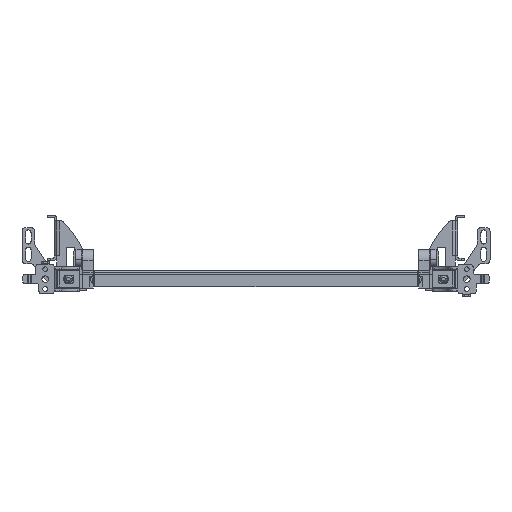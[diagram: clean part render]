
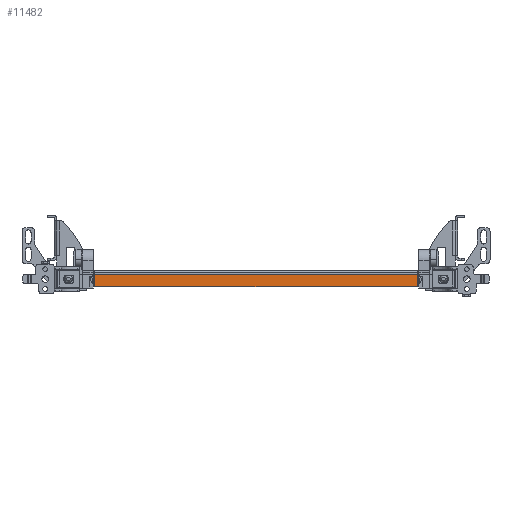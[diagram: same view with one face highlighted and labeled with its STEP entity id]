
A CAD part, front view. The second image highlights one B-rep face of the part: STEP entity #11482.
In plain terms, the highlighted planar face has unit normal (0, -1, 0).
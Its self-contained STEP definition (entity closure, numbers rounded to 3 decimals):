
#6 = CARTESIAN_POINT ( 'NONE',  ( 205.5, -948., -21. ) ) ;
#182 = DIRECTION ( 'NONE',  ( 0., 0., 1. ) ) ;
#307 = EDGE_CURVE ( 'NONE', #5865, #2279, #9879, .T. ) ;
#1645 = VERTEX_POINT ( 'NONE', #1746 ) ;
#1745 = DIRECTION ( 'NONE',  ( 0., -1., 0. ) ) ;
#1746 = CARTESIAN_POINT ( 'NONE',  ( -204.5, -948., -21. ) ) ;
#1838 = DIRECTION ( 'NONE',  ( 0., 0., 1. ) ) ;
#1953 = ORIENTED_EDGE ( 'NONE', *, *, #5799, .F. ) ;
#2279 = VERTEX_POINT ( 'NONE', #13892 ) ;
#2468 = AXIS2_PLACEMENT_3D ( 'NONE', #16094, #13076, #1838 ) ;
#3004 = CARTESIAN_POINT ( 'NONE',  ( 204.5, -948., -21. ) ) ;
#3028 = CARTESIAN_POINT ( 'NONE',  ( -205.5, -948., -20. ) ) ;
#3331 = LINE ( 'NONE', #6, #17313 ) ;
#3400 = FACE_OUTER_BOUND ( 'NONE', #13832, .T. ) ;
#4310 = VERTEX_POINT ( 'NONE', #3028 ) ;
#5016 = ORIENTED_EDGE ( 'NONE', *, *, #15464, .F. ) ;
#5799 = EDGE_CURVE ( 'NONE', #16241, #16044, #13929, .T. ) ;
#5865 = VERTEX_POINT ( 'NONE', #3004 ) ;
#6688 = DIRECTION ( 'NONE',  ( 0., 0., -1. ) ) ;
#7015 = CARTESIAN_POINT ( 'NONE',  ( 205.5, -948., -5. ) ) ;
#7492 = CARTESIAN_POINT ( 'NONE',  ( 205.5, -948., -5. ) ) ;
#7500 = EDGE_CURVE ( 'NONE', #16044, #2279, #10106, .T. ) ;
#8461 = DIRECTION ( 'NONE',  ( 0., 0., 1. ) ) ;
#9343 = VECTOR ( 'NONE', #14122, 1000. ) ;
#9560 = AXIS2_PLACEMENT_3D ( 'NONE', #11415, #1745, #182 ) ;
#9879 = CIRCLE ( 'NONE', #9560, 1. ) ;
#10010 = LINE ( 'NONE', #10213, #17343 ) ;
#10106 = LINE ( 'NONE', #13017, #10887 ) ;
#10213 = CARTESIAN_POINT ( 'NONE',  ( -205.5, -948., -21. ) ) ;
#10268 = ORIENTED_EDGE ( 'NONE', *, *, #15138, .F. ) ;
#10680 = ORIENTED_EDGE ( 'NONE', *, *, #13246, .T. ) ;
#10887 = VECTOR ( 'NONE', #6688, 1000. ) ;
#11408 = PLANE ( 'NONE',  #2468 ) ;
#11415 = CARTESIAN_POINT ( 'NONE',  ( 204.5, -948., -20. ) ) ;
#11482 = ADVANCED_FACE ( 'NONE', ( #3400 ), #11408, .F. ) ;
#11564 = CARTESIAN_POINT ( 'NONE',  ( -205.5, -948., -5. ) ) ;
#11968 = CIRCLE ( 'NONE', #13286, 1. ) ;
#13017 = CARTESIAN_POINT ( 'NONE',  ( 205.5, -948., -2.5 ) ) ;
#13076 = DIRECTION ( 'NONE',  ( 0., 1., 0. ) ) ;
#13246 = EDGE_CURVE ( 'NONE', #4310, #1645, #11968, .T. ) ;
#13286 = AXIS2_PLACEMENT_3D ( 'NONE', #15237, #20010, #20116 ) ;
#13832 = EDGE_LOOP ( 'NONE', ( #10268, #10680, #5016, #16198, #20371, #1953 ) ) ;
#13892 = CARTESIAN_POINT ( 'NONE',  ( 205.5, -948., -20. ) ) ;
#13929 = LINE ( 'NONE', #7492, #9343 ) ;
#14122 = DIRECTION ( 'NONE',  ( 1., 0., 0. ) ) ;
#15138 = EDGE_CURVE ( 'NONE', #4310, #16241, #10010, .T. ) ;
#15237 = CARTESIAN_POINT ( 'NONE',  ( -204.5, -948., -20. ) ) ;
#15464 = EDGE_CURVE ( 'NONE', #5865, #1645, #3331, .T. ) ;
#16044 = VERTEX_POINT ( 'NONE', #7015 ) ;
#16094 = CARTESIAN_POINT ( 'NONE',  ( 0., -948., 0. ) ) ;
#16198 = ORIENTED_EDGE ( 'NONE', *, *, #307, .T. ) ;
#16241 = VERTEX_POINT ( 'NONE', #11564 ) ;
#17313 = VECTOR ( 'NONE', #19040, 1000. ) ;
#17343 = VECTOR ( 'NONE', #8461, 1000. ) ;
#19040 = DIRECTION ( 'NONE',  ( -1., 0., 0. ) ) ;
#20010 = DIRECTION ( 'NONE',  ( 0., -1., 0. ) ) ;
#20116 = DIRECTION ( 'NONE',  ( 0., 0., 1. ) ) ;
#20371 = ORIENTED_EDGE ( 'NONE', *, *, #7500, .F. ) ;
